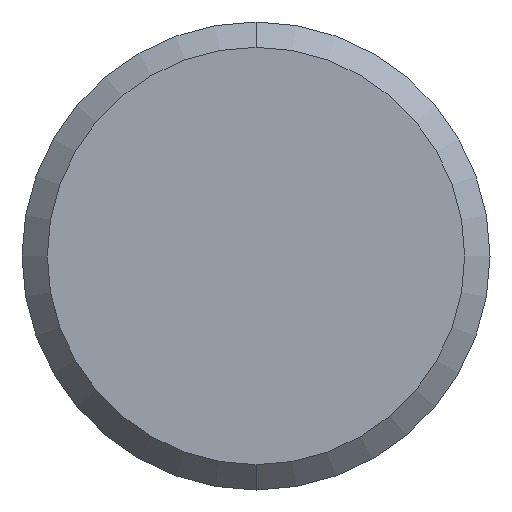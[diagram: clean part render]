
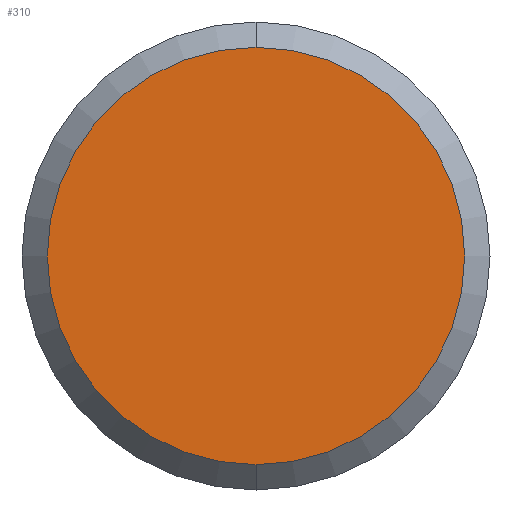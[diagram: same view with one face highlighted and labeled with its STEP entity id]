
A CAD part, left-side view. The second image highlights one B-rep face of the part: STEP entity #310.
In plain terms, the highlighted planar face has unit normal (-1, 0, 0).
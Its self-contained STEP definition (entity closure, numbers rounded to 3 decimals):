
#1 = PLANE ( 'NONE',  #433 ) ;
#10 = DIRECTION ( 'NONE',  ( -1., 0., 0. ) ) ;
#29 = DIRECTION ( 'NONE',  ( 0., 0., -1. ) ) ;
#35 = CARTESIAN_POINT ( 'NONE',  ( 0., 0., 0. ) ) ;
#36 = DIRECTION ( 'NONE',  ( 0., 0., -1. ) ) ;
#49 = AXIS2_PLACEMENT_3D ( 'NONE', #595, #505, #29 ) ;
#149 = EDGE_CURVE ( 'NONE', #228, #293, #175, .T. ) ;
#164 = CARTESIAN_POINT ( 'NONE',  ( 0., 0., 16.5 ) ) ;
#175 = CIRCLE ( 'NONE', #568, 16.5 ) ;
#194 = EDGE_CURVE ( 'NONE', #293, #228, #524, .T. ) ;
#218 = ORIENTED_EDGE ( 'NONE', *, *, #194, .T. ) ;
#228 = VERTEX_POINT ( 'NONE', #164 ) ;
#293 = VERTEX_POINT ( 'NONE', #549 ) ;
#310 = ADVANCED_FACE ( 'NONE', ( #480 ), #1, .F. ) ;
#332 = CARTESIAN_POINT ( 'NONE',  ( 0., 0., 0. ) ) ;
#372 = DIRECTION ( 'NONE',  ( 1., 0., 0. ) ) ;
#433 = AXIS2_PLACEMENT_3D ( 'NONE', #35, #372, #36 ) ;
#480 = FACE_OUTER_BOUND ( 'NONE', #489, .T. ) ;
#489 = EDGE_LOOP ( 'NONE', ( #218, #578 ) ) ;
#494 = DIRECTION ( 'NONE',  ( 0., 0., -1. ) ) ;
#505 = DIRECTION ( 'NONE',  ( -1., 0., 0. ) ) ;
#524 = CIRCLE ( 'NONE', #49, 16.5 ) ;
#549 = CARTESIAN_POINT ( 'NONE',  ( 0., 0., -16.5 ) ) ;
#568 = AXIS2_PLACEMENT_3D ( 'NONE', #332, #10, #494 ) ;
#578 = ORIENTED_EDGE ( 'NONE', *, *, #149, .T. ) ;
#595 = CARTESIAN_POINT ( 'NONE',  ( 0., 0., 0. ) ) ;
